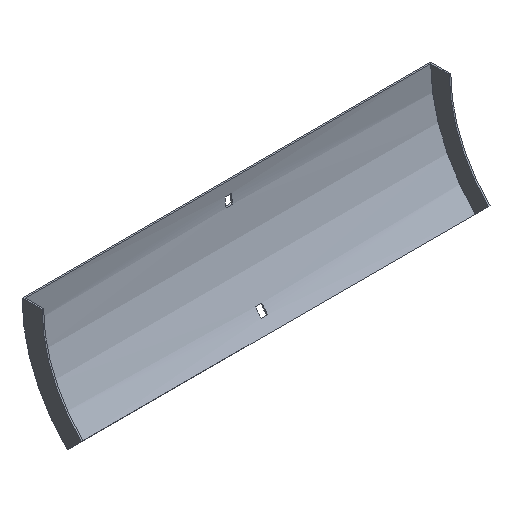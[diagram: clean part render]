
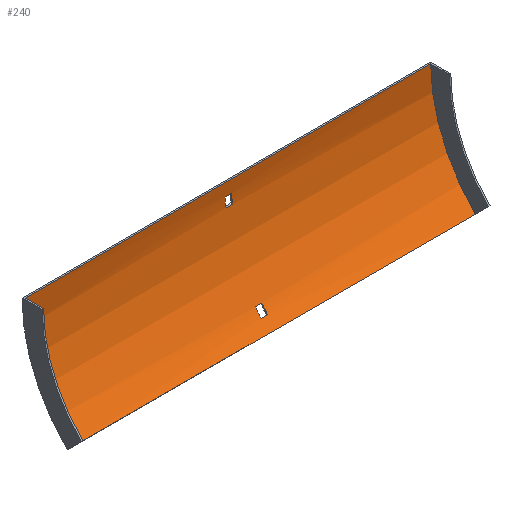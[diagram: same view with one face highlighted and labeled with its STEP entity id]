
A CAD part, isometric view. The second image highlights one B-rep face of the part: STEP entity #240.
In plain terms, the highlighted cylindrical face has radius 152 mm (diameter 304 mm), a partial arc.
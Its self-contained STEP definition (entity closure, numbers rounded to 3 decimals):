
#1 = CARTESIAN_POINT ( 'NONE',  ( -3.25, -153.5, 0. ) ) ;
#6 = CARTESIAN_POINT ( 'NONE',  ( 202., -1.5, 0. ) ) ;
#10 = CARTESIAN_POINT ( 'NONE',  ( 3.25, -153.5, 0. ) ) ;
#28 = CIRCLE ( 'NONE', #139, 152. ) ;
#33 = ORIENTED_EDGE ( 'NONE', *, *, #133, .T. ) ;
#34 = AXIS2_PLACEMENT_3D ( 'NONE', #365, #549, #84 ) ;
#35 = EDGE_CURVE ( 'NONE', #418, #41, #56, .T. ) ;
#41 = VERTEX_POINT ( 'NONE', #340 ) ;
#43 = DIRECTION ( 'NONE',  ( 0., 0., -1. ) ) ;
#49 = DIRECTION ( 'NONE',  ( 1., 0., 0. ) ) ;
#56 = LINE ( 'NONE', #520, #235 ) ;
#59 = DIRECTION ( 'NONE',  ( 0., 0., 1. ) ) ;
#62 = CARTESIAN_POINT ( 'NONE',  ( -3.25, -2.958, -21. ) ) ;
#64 = DIRECTION ( 'NONE',  ( -1., 0., 0. ) ) ;
#69 = CARTESIAN_POINT ( 'NONE',  ( 203.5, -1.974, -12. ) ) ;
#71 = DIRECTION ( 'NONE',  ( -1., 0., 0. ) ) ;
#84 = DIRECTION ( 'NONE',  ( 0., 0., 1. ) ) ;
#87 = EDGE_CURVE ( 'NONE', #232, #606, #599, .T. ) ;
#92 = CARTESIAN_POINT ( 'NONE',  ( 203.5, -32.201, -91.6 ) ) ;
#104 = CARTESIAN_POINT ( 'NONE',  ( 3.25, -2.958, -21. ) ) ;
#109 = CARTESIAN_POINT ( 'NONE',  ( -3.25, -153.5, 0. ) ) ;
#122 = CARTESIAN_POINT ( 'NONE',  ( 202., -46.02, -107.48 ) ) ;
#125 = VECTOR ( 'NONE', #284, 1000. ) ;
#131 = ORIENTED_EDGE ( 'NONE', *, *, #268, .T. ) ;
#133 = EDGE_CURVE ( 'NONE', #402, #278, #373, .T. ) ;
#136 = DIRECTION ( 'NONE',  ( -1., 0., 0. ) ) ;
#137 = FACE_OUTER_BOUND ( 'NONE', #297, .T. ) ;
#139 = AXIS2_PLACEMENT_3D ( 'NONE', #293, #147, #201 ) ;
#144 = ORIENTED_EDGE ( 'NONE', *, *, #174, .F. ) ;
#147 = DIRECTION ( 'NONE',  ( 1., 0., 0. ) ) ;
#174 = EDGE_CURVE ( 'NONE', #399, #509, #476, .T. ) ;
#175 = CIRCLE ( 'NONE', #510, 152. ) ;
#179 = CARTESIAN_POINT ( 'NONE',  ( 202., -46.02, -107.48 ) ) ;
#181 = VECTOR ( 'NONE', #64, 1000. ) ;
#182 = ORIENTED_EDGE ( 'NONE', *, *, #522, .T. ) ;
#185 = EDGE_LOOP ( 'NONE', ( #131, #380, #33, #182 ) ) ;
#189 = DIRECTION ( 'NONE',  ( -1., 0., 0. ) ) ;
#190 = CARTESIAN_POINT ( 'NONE',  ( -3.25, -37.87, -98.659 ) ) ;
#196 = EDGE_CURVE ( 'NONE', #385, #399, #404, .T. ) ;
#201 = DIRECTION ( 'NONE',  ( 0., 0., 1. ) ) ;
#232 = VERTEX_POINT ( 'NONE', #122 ) ;
#235 = VECTOR ( 'NONE', #189, 1000. ) ;
#240 = ADVANCED_FACE ( 'NONE', ( #504, #137, #363 ), #411, .F. ) ;
#245 = ORIENTED_EDGE ( 'NONE', *, *, #361, .F. ) ;
#268 = EDGE_CURVE ( 'NONE', #502, #272, #424, .T. ) ;
#272 = VERTEX_POINT ( 'NONE', #190 ) ;
#278 = VERTEX_POINT ( 'NONE', #571 ) ;
#283 = DIRECTION ( 'NONE',  ( 1., 0., 0. ) ) ;
#284 = DIRECTION ( 'NONE',  ( 1., 0., 0. ) ) ;
#290 = CARTESIAN_POINT ( 'NONE',  ( 3.25, -1.974, -12. ) ) ;
#292 = AXIS2_PLACEMENT_3D ( 'NONE', #1, #367, #551 ) ;
#293 = CARTESIAN_POINT ( 'NONE',  ( 202., -153.5, 0. ) ) ;
#297 = EDGE_LOOP ( 'NONE', ( #598, #366, #552, #500 ) ) ;
#299 = DIRECTION ( 'NONE',  ( -1., 0., 0. ) ) ;
#303 = DIRECTION ( 'NONE',  ( 0., 0., 1. ) ) ;
#307 = DIRECTION ( 'NONE',  ( -1., 0., 0. ) ) ;
#313 = VECTOR ( 'NONE', #49, 1000. ) ;
#339 = CARTESIAN_POINT ( 'NONE',  ( -202., -153.5, 0. ) ) ;
#340 = CARTESIAN_POINT ( 'NONE',  ( -202., -1.5, 0. ) ) ;
#360 = EDGE_CURVE ( 'NONE', #272, #402, #441, .T. ) ;
#361 = EDGE_CURVE ( 'NONE', #591, #385, #175, .T. ) ;
#363 = FACE_BOUND ( 'NONE', #185, .T. ) ;
#365 = CARTESIAN_POINT ( 'NONE',  ( 203.5, -153.5, 0. ) ) ;
#366 = ORIENTED_EDGE ( 'NONE', *, *, #87, .F. ) ;
#367 = DIRECTION ( 'NONE',  ( 1., 0., 0. ) ) ;
#373 = LINE ( 'NONE', #92, #125 ) ;
#376 = CARTESIAN_POINT ( 'NONE',  ( 3.25, -153.5, 0. ) ) ;
#380 = ORIENTED_EDGE ( 'NONE', *, *, #360, .T. ) ;
#382 = CARTESIAN_POINT ( 'NONE',  ( -3.25, -32.201, -91.6 ) ) ;
#385 = VERTEX_POINT ( 'NONE', #290 ) ;
#387 = ORIENTED_EDGE ( 'NONE', *, *, #196, .F. ) ;
#391 = EDGE_CURVE ( 'NONE', #509, #591, #506, .T. ) ;
#398 = CIRCLE ( 'NONE', #415, 152. ) ;
#399 = VERTEX_POINT ( 'NONE', #603 ) ;
#400 = VECTOR ( 'NONE', #71, 1000. ) ;
#402 = VERTEX_POINT ( 'NONE', #382 ) ;
#404 = LINE ( 'NONE', #69, #181 ) ;
#411 = CYLINDRICAL_SURFACE ( 'NONE', #34, 152. ) ;
#412 = EDGE_CURVE ( 'NONE', #232, #418, #28, .T. ) ;
#414 = EDGE_LOOP ( 'NONE', ( #144, #387, #245, #542 ) ) ;
#415 = AXIS2_PLACEMENT_3D ( 'NONE', #339, #527, #59 ) ;
#416 = CARTESIAN_POINT ( 'NONE',  ( 203.5, -2.958, -21. ) ) ;
#418 = VERTEX_POINT ( 'NONE', #6 ) ;
#424 = LINE ( 'NONE', #493, #400 ) ;
#441 = CIRCLE ( 'NONE', #292, 152. ) ;
#450 = CIRCLE ( 'NONE', #538, 152. ) ;
#466 = VECTOR ( 'NONE', #136, 1000. ) ;
#467 = AXIS2_PLACEMENT_3D ( 'NONE', #109, #299, #487 ) ;
#470 = EDGE_CURVE ( 'NONE', #606, #41, #398, .T. ) ;
#476 = CIRCLE ( 'NONE', #467, 152. ) ;
#487 = DIRECTION ( 'NONE',  ( 0., 0., 1. ) ) ;
#491 = CARTESIAN_POINT ( 'NONE',  ( 3.25, -37.87, -98.659 ) ) ;
#493 = CARTESIAN_POINT ( 'NONE',  ( 203.5, -37.87, -98.659 ) ) ;
#500 = ORIENTED_EDGE ( 'NONE', *, *, #35, .T. ) ;
#502 = VERTEX_POINT ( 'NONE', #491 ) ;
#504 = FACE_BOUND ( 'NONE', #414, .T. ) ;
#506 = LINE ( 'NONE', #416, #313 ) ;
#509 = VERTEX_POINT ( 'NONE', #62 ) ;
#510 = AXIS2_PLACEMENT_3D ( 'NONE', #376, #283, #43 ) ;
#520 = CARTESIAN_POINT ( 'NONE',  ( 202., -1.5, 0. ) ) ;
#522 = EDGE_CURVE ( 'NONE', #278, #502, #450, .T. ) ;
#527 = DIRECTION ( 'NONE',  ( 1., 0., 0. ) ) ;
#538 = AXIS2_PLACEMENT_3D ( 'NONE', #10, #307, #303 ) ;
#542 = ORIENTED_EDGE ( 'NONE', *, *, #391, .F. ) ;
#549 = DIRECTION ( 'NONE',  ( -1., 0., 0. ) ) ;
#551 = DIRECTION ( 'NONE',  ( 0., 0., -1. ) ) ;
#552 = ORIENTED_EDGE ( 'NONE', *, *, #412, .T. ) ;
#571 = CARTESIAN_POINT ( 'NONE',  ( 3.25, -32.201, -91.6 ) ) ;
#583 = CARTESIAN_POINT ( 'NONE',  ( -202., -46.02, -107.48 ) ) ;
#591 = VERTEX_POINT ( 'NONE', #104 ) ;
#598 = ORIENTED_EDGE ( 'NONE', *, *, #470, .F. ) ;
#599 = LINE ( 'NONE', #179, #466 ) ;
#603 = CARTESIAN_POINT ( 'NONE',  ( -3.25, -1.974, -12. ) ) ;
#606 = VERTEX_POINT ( 'NONE', #583 ) ;
